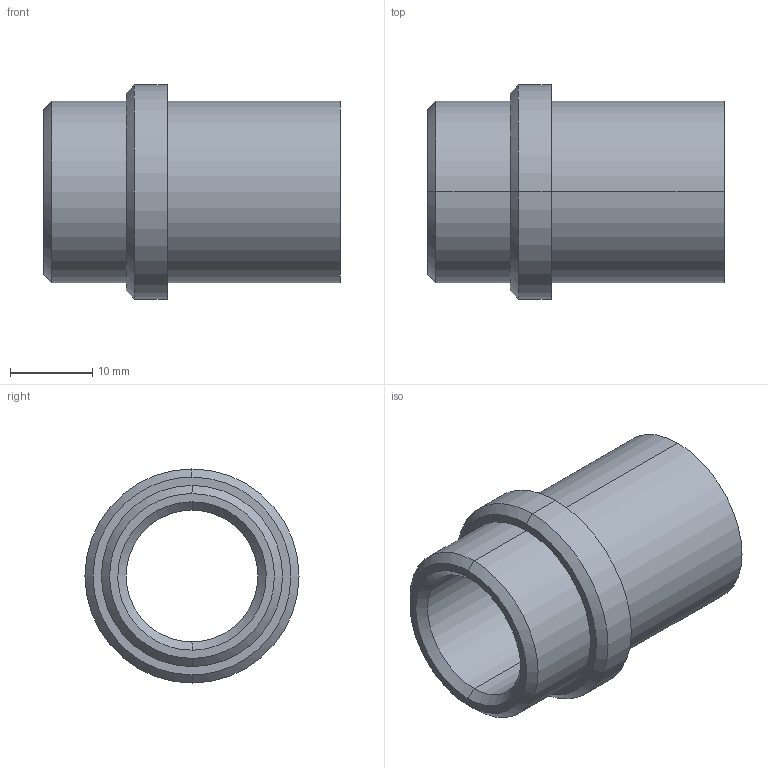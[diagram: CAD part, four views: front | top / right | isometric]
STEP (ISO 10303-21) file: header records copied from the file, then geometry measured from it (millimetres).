
FILE_DESCRIPTION(('CATIA V5 STEP Exchange'),'2;1');
FILE_NAME('C:\Users\Utente\Desktop\IO LAVORO\3D X SITO CF\X SITO\PLASTICA\358\358-16x36.stp','2021-04-08T13:56:12+00:00',('none'),('none'),'CATIA Version 5 Release 20 GA (IN-10)','CATIA V5 STEP AP203','none');
FILE_SCHEMA(('CONFIG_CONTROL_DESIGN'));
Length unit declared in the file: millimetre
Products named in the file (1): 358-16X36
Bounding box: 36 x 26 x 26 mm (x, y, z)
Volume: 7055.5 mm3; surface area: 4859.8 mm2
Topology: 1 solids, 1 shells, 20 faces, 64 edges, 48 vertices
Faces by surface type: cylinder 8, cone 6, plane 4, torus 2
Entity records: 906 total; most frequent: CARTESIAN_POINT 301, ORIENTED_EDGE 128, DIRECTION 92, EDGE_CURVE 64, AXIS2_PLACEMENT_3D 59, VERTEX_POINT 48, CIRCLE 38, EDGE_LOOP 24
